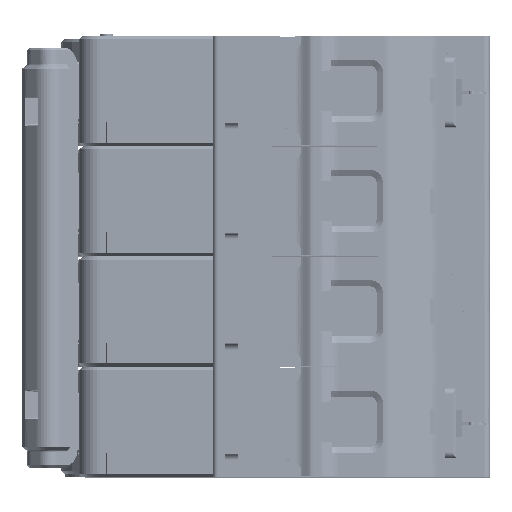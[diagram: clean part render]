
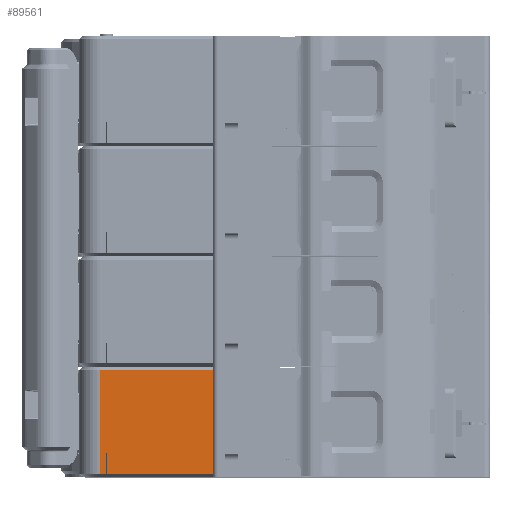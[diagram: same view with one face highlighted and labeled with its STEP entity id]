
A CAD part, top view. The second image highlights one B-rep face of the part: STEP entity #89561.
In plain terms, the highlighted planar face has unit normal (0, 0, 1).
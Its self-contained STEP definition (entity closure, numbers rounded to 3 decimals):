
#3263=DIRECTION('',(0.,-1.,0.));
#3264=VECTOR('',#3263,16.6);
#3265=CARTESIAN_POINT('',(-11.,17.15,30.));
#3266=LINE('',#3265,#3264);
#3296=DIRECTION('',(1.,0.,0.));
#3297=VECTOR('',#3296,0.05);
#3298=CARTESIAN_POINT('',(-10.05,3.85,30.));
#3299=LINE('',#3298,#3297);
#3304=DIRECTION('',(0.,-1.,0.));
#3305=VECTOR('',#3304,3.3);
#3306=CARTESIAN_POINT('',(-10.,3.85,30.));
#3307=LINE('',#3306,#3305);
#3316=DIRECTION('',(0.,-1.,0.));
#3317=VECTOR('',#3316,3.3);
#3318=CARTESIAN_POINT('',(-10.05,3.85,30.));
#3319=LINE('',#3318,#3317);
#3320=DIRECTION('',(-1.,0.,0.));
#3321=VECTOR('',#3320,0.95);
#3322=CARTESIAN_POINT('',(-10.05,0.55,
30.));
#3323=LINE('',#3322,#3321);
#3324=DIRECTION('',(1.,0.,0.));
#3325=VECTOR('',#3324,18.);
#3326=CARTESIAN_POINT('',(-11.,17.15,30.));
#3327=LINE('',#3326,#3325);
#3328=DIRECTION('',(0.,-1.,0.));
#3329=VECTOR('',#3328,16.6);
#3330=CARTESIAN_POINT('',(7.,17.15,30.));
#3331=LINE('',#3330,#3329);
#3332=DIRECTION('',(1.,0.,0.));
#3333=VECTOR('',#3332,17.);
#3334=CARTESIAN_POINT('',(-10.,0.55,30.));
#3335=LINE('',#3334,#3333);
#66700=CARTESIAN_POINT('',(7.,0.55,30.));
#66701=VERTEX_POINT('',#66700);
#67607=CARTESIAN_POINT('',(-10.,0.55,30.));
#67608=VERTEX_POINT('',#67607);
#70589=CARTESIAN_POINT('',(-10.05,3.85,30.));
#70591=VERTEX_POINT('',#70589);
#70592=CARTESIAN_POINT('',(-10.05,0.55,
30.));
#70593=VERTEX_POINT('',#70592);
#70602=CARTESIAN_POINT('',(-11.,0.55,
30.));
#70603=VERTEX_POINT('',#70602);
#70604=CARTESIAN_POINT('',(-11.,17.15,
30.));
#70605=VERTEX_POINT('',#70604);
#70606=CARTESIAN_POINT('',(7.,17.15,30.));
#70607=VERTEX_POINT('',#70606);
#71178=CARTESIAN_POINT('',(-10.,3.85,30.));
#71180=VERTEX_POINT('',#71178);
#89545=CARTESIAN_POINT('',(-14.,0.,30.));
#89546=DIRECTION('',(0.,0.,1.));
#89547=DIRECTION('',(1.,0.,0.));
#89548=AXIS2_PLACEMENT_3D('',#89545,#89546,#89547);
#89549=PLANE('',#89548);
#89550=ORIENTED_EDGE('',*,*,#89535,.F.);
#89551=ORIENTED_EDGE('',*,*,#89524,.F.);
#89552=ORIENTED_EDGE('',*,*,#89509,.T.);
#89553=ORIENTED_EDGE('',*,*,#89493,.T.);
#89554=ORIENTED_EDGE('',*,*,#89465,.F.);
#89555=ORIENTED_EDGE('',*,*,#89407,.T.);
#89556=ORIENTED_EDGE('',*,*,#89084,.T.);
#89558=ORIENTED_EDGE('',*,*,#89557,.F.);
#89559=EDGE_LOOP('',(#89550,#89551,#89552,#89553,#89554,#89555,#89556,#89558));
#89560=FACE_OUTER_BOUND('',#89559,.F.);
#89561=ADVANCED_FACE('',(#89560),#89549,.T.);
#89084=EDGE_CURVE('',#70607,#66701,#3331,.T.);
#89407=EDGE_CURVE('',#70605,#70607,#3327,.T.);
#89465=EDGE_CURVE('',#70605,#70603,#3266,.T.);
#89493=EDGE_CURVE('',#70593,#70603,#3323,.T.);
#89509=EDGE_CURVE('',#70591,#70593,#3319,.T.);
#89524=EDGE_CURVE('',#70591,#71180,#3299,.T.);
#89535=EDGE_CURVE('',#71180,#67608,#3307,.T.);
#89557=EDGE_CURVE('',#67608,#66701,#3335,.T.);
